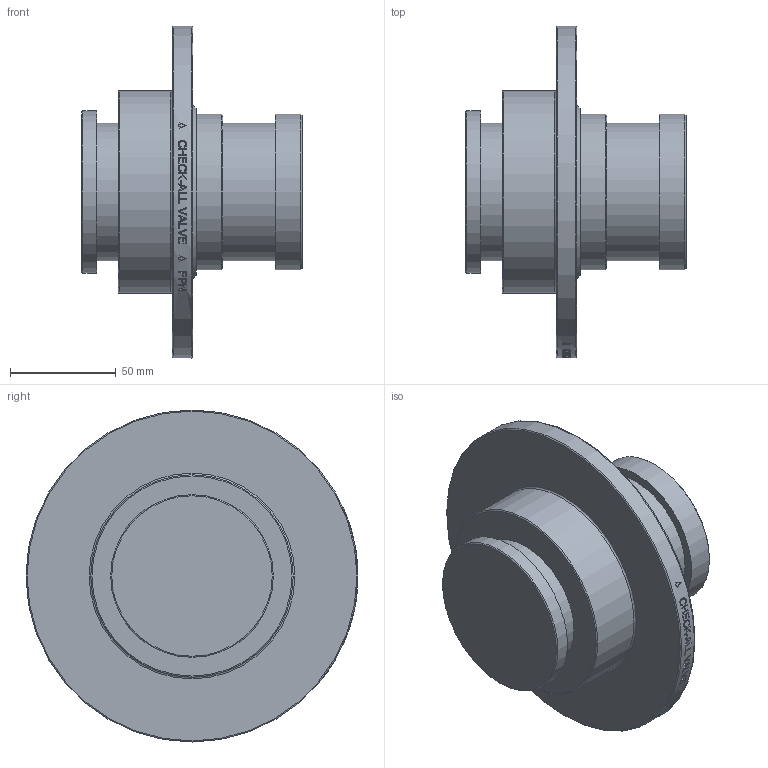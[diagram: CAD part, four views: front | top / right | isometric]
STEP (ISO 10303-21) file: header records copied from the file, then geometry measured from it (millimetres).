
FILE_DESCRIPTION( ( 'Unknown' ), '1' );
FILE_NAME( 'Y:/ENGR/3D Solid Edge Models/FP/FP STEP/FPN.stp', 'Unknown', ( 'Unknown' ), ( 'Unknown' ), 'PSStep 14.0', 'Unknown', ' ' );
FILE_SCHEMA( ( 'AUTOMOTIVE_DESIGN { 1 0 10303 214 1 1 1 1 }' ) );
Length unit declared in the file: millimetre
Products named in the file (1): 1
Bounding box: 104.32 x 157.08 x 157.08 mm (x, y, z)
Volume: 636701.6 mm3; surface area: 70550.8 mm2
Topology: 1 solids, 1 shells, 216 faces, 542 edges, 359 vertices
Faces by surface type: plane 132, bspline 45, cylinder 31, torus 5, cone 3
Full cylindrical faces by diameter (mm): 65.024 x2, 73.787 x2, 76.962 x1, 95.783 x1, 157.048 x1
Entity records: 9993 total; most frequent: CARTESIAN_POINT 4237, ORIENTED_EDGE 1054, EDGE_CURVE 527, B_SPLINE_CURVE_WITH_KNOTS 504, DIRECTION 390, VERTEX_POINT 359, EDGE_LOOP 262, FACE_OUTER_BOUND 228
